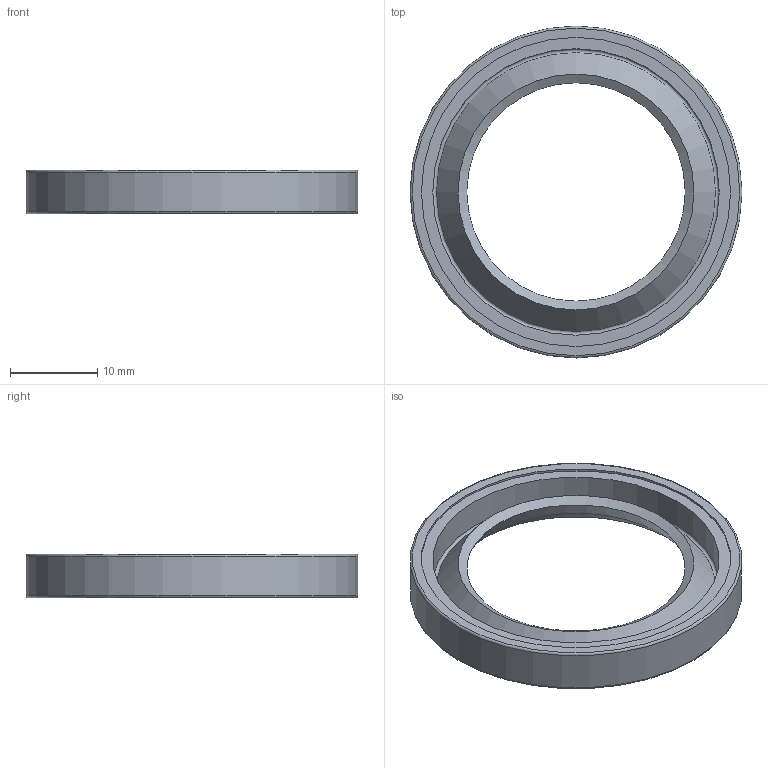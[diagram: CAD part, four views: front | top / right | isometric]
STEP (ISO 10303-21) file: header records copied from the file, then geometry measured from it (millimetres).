
FILE_DESCRIPTION(/* description */ ('오일 실 - 비스프링, 조립 GA'),/* implementation_level */ '2;1');
FILE_NAME(/* name */ '',/* time_stamp */ '2025-07-11T16:44:54+09:00',/* author */ ('jhkim'),/* organization */ (''),/* preprocessor_version */ 'ST-DEVELOPER v20.1',/* originating_system */ 'Autodesk Inventor 2026',/* authorisation */ '');
FILE_SCHEMA (('AUTOMOTIVE_DESIGN { 1 0 10303 214 3 1 1 }'));
Length unit declared in the file: millimetre
Products named in the file (1): 오일 실 25 38 5
Bounding box: 38 x 38 x 5 mm (x, y, z)
Volume: 1971.7 mm3; surface area: 2576.3 mm2
Topology: 1 solids, 1 shells, 15 faces, 27 edges, 15 vertices
Faces by surface type: cone 5, torus 4, cylinder 3, plane 3
Full cylindrical faces by diameter (mm): 32.8 x1, 35.4 x1, 38 x1
Entity records: 415 total; most frequent: DIRECTION 78, CARTESIAN_POINT 58, ORIENTED_EDGE 54, AXIS2_PLACEMENT_3D 35, EDGE_CURVE 27, CIRCLE 19, EDGE_LOOP 18, FACE_OUTER_BOUND 15
